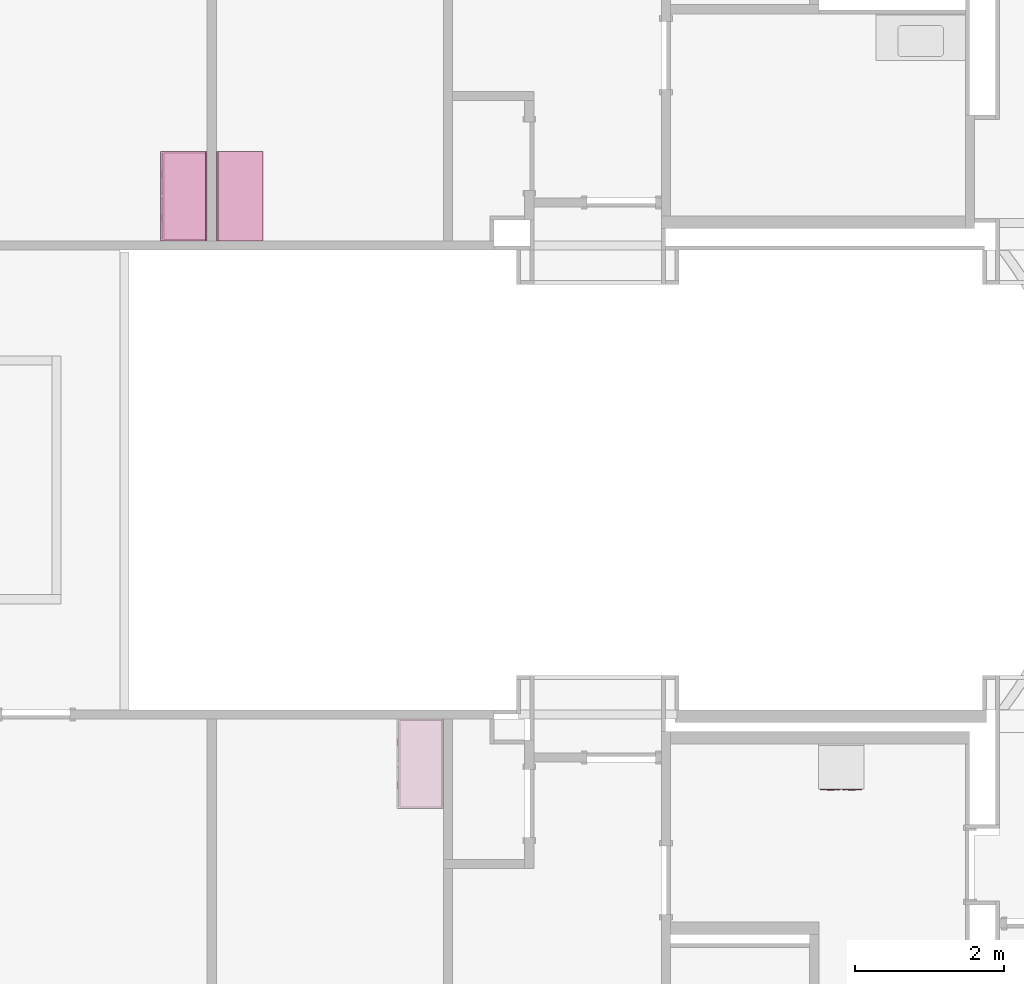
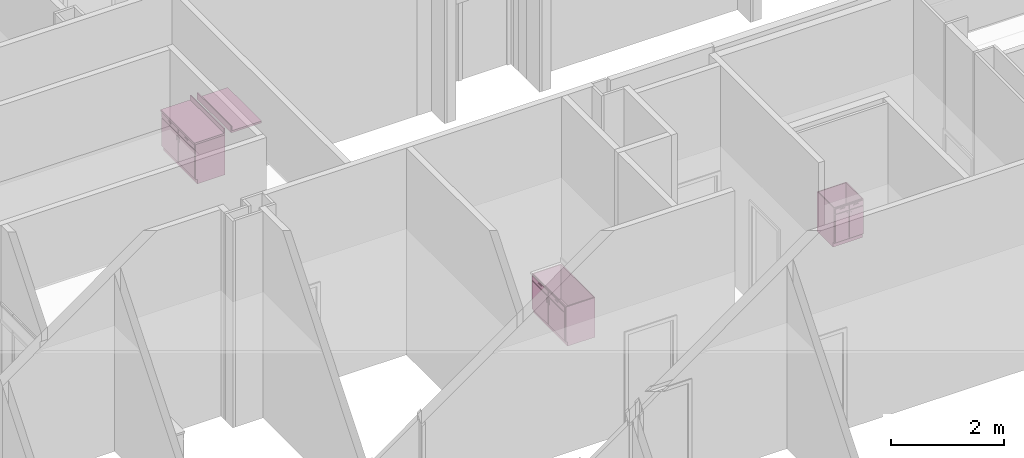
# One storey, part 77 of 82: 5 furnishings, 2 openings.
"""IFC2X3 building model written with IfcOpenShell, lengths in metres."""

from ifc_helpers import new_model, entity, si_unit, converted_unit, frame, frame_2d, origin, place, context, project, spatial, polyline, circle_curve, parameter, trimmed, segment, composite_curve, outline, extrude, face_set, surface_model, source, transform, mapped, type_object, type_shapes, element, save


model = new_model("IFC2X3")

# Units and contexts
model_context = context("Model", 3, precision=1e-09, world=origin())
plan_context = context("Plan", 3, precision=1e-09, world=origin())
ifc_project = project(units=[si_unit("LENGTHUNIT", "METRE"), si_unit("AREAUNIT", "SQUARE_METRE"), si_unit("VOLUMEUNIT", "CUBIC_METRE"), converted_unit("PLANEANGLEUNIT", "DEGREE", entity("IfcRatioMeasure", 0.01745329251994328), si_unit("PLANEANGLEUNIT", "RADIAN"), dimensions=[0, 0, 0, 0, 0, 0, 0]), si_unit("TIMEUNIT", "SECOND")], contexts=[model_context, plan_context])

# Site, building, storey, space
site_placement = place(None, origin())
site = spatial("IfcSite", under=ifc_project, at=site_placement, Name="Default", CompositionType="ELEMENT")
building_placement = place(site_placement, origin())
building = spatial("IfcBuilding", under=site, at=building_placement, CompositionType="ELEMENT")
storey_placement = place(building_placement, origin())
storey = spatial("IfcBuildingStorey", under=building, at=storey_placement, Name="First Floor", CompositionType="ELEMENT", Elevation=-3.531500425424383e-13)
space_1_placement = place(storey_placement, origin())
space_1 = spatial("IfcSpace", under=storey, at=space_1_placement, Name="1D08", CompositionType="ELEMENT", InteriorOrExteriorSpace="INTERNAL")

# Furnishing, opening
furniture_type_1 = type_object("IfcFurnitureType", Name="600mm Depth", AssemblyPlace="NOTDEFINED")
shared_shape_1 = source(origin(), model_context, "Body", "SweptSolid", [
    extrude(outline(polyline([(-0.0605333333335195, -0.2146833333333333), (0.08106666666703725, -0.2146833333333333), (0.08106666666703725, -0.1956333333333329), (-0.02053333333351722, -0.1956333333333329), (-0.02053333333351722, 0.4103166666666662), (-0.0605333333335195, 0.4103166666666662), (-0.0605333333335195, -0.2146833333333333)])), frame((-1.200462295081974, -0.2146833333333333, 0.920533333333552), z_axis=(1.0, 0.0, 0.0), x_axis=(0.0, 0.0, 1.0)), (0.0, 0.0, 1.0), 1.200000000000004),
])
type_shapes(furniture_type_1, [shared_shape_1])
furnishing_1_placement = place(space_1_placement, frame((-30.34000000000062, 36.10401044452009, 0.0), z_axis=(0.0, 0.0, 1.0), x_axis=(0.0, 1.0, 0.0)))
furnishing_1 = element("IfcFurnishingElement", 1, at=furnishing_1_placement, inside=space_1, type_object=furniture_type_1, Name="M_Counter Top w Sink Hole:600mm Depth:600mm Depth", ObjectType="600mm Depth", context=model_context, shape_type="MappedRepresentation", body=[
    mapped(shared_shape_1, transform((0.0, 0.0, 0.0), scale=1.0)),
])
opening_1_placement = place(space_1_placement, frame((-30.34000000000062, 36.10401044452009, 0.0), z_axis=(0.0, 0.0, 1.0), x_axis=(0.0, 1.0, 0.0)))
element("IfcOpeningElement", 2, at=opening_1_placement, cuts=furnishing_1, Name="M_Counter Top w Sink Hole:600mm Depth:600mm Depth:1", ObjectType="Opening", context=model_context, shape_type="SweptSolid", body=[
    extrude(outline(composite_curve([segment(polyline([(-0.2554000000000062, -0.208329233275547), (0.255399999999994, -0.2083292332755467)]), True, "CONTINUOUS"), segment(trimmed(circle_curve(frame_2d((0.2553999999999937, -0.1575292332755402), x_axis=(1.0, 0.0)), 0.05080000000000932), [parameter(270.0000000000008)], [parameter(1.068666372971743e-12)], True, "PARAMETER"), True, "CONTINUOUS"), segment(polyline([(0.306200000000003, -0.1575292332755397), (0.3062000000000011, 0.1575292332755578)]), True, "CONTINUOUS"), segment(trimmed(circle_curve(frame_2d((0.2554000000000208, 0.1575292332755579), x_axis=(1.0, 0.0)), 0.05079999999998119), [parameter(359.9999999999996)], [parameter(90.0000000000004)], True, "PARAMETER"), True, "CONTINUOUS"), segment(polyline([(0.2554000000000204, 0.2083292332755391), (-0.2554000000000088, 0.2083292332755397)]), True, "CONTINUOUS"), segment(trimmed(circle_curve(frame_2d((-0.2554000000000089, 0.1575292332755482), x_axis=(1.0, 0.0)), 0.0507999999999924), [parameter(90.00000000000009)], [parameter(179.9999999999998)], True, "PARAMETER"), True, "CONTINUOUS"), segment(polyline([(-0.3062000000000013, 0.157529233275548), (-0.3062000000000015, -0.1575292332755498)]), True, "CONTINUOUS"), segment(trimmed(circle_curve(frame_2d((-0.2554000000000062, -0.15752923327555), x_axis=(1.0, 0.0)), 0.05079999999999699), [parameter(179.9999999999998)], [parameter(269.9999999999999)], True, "PARAMETER"), True, "CONTINUOUS")], self_intersect=False)), frame((-0.3653589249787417, 0.6004622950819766, 0.900000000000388), z_axis=(0.0, 0.0, -1.0), x_axis=(0.0, -1.0, 0.0)), (0.0, 0.0, 1.0), 0.04000000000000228),
])

# Space
space_2_placement = place(storey_placement, origin())
space_2 = spatial("IfcSpace", under=storey, at=space_2_placement, Name="1D40", CompositionType="ELEMENT", InteriorOrExteriorSpace="INTERNAL")

# Furnishing
furniture_type_2 = type_object("IfcFurnitureType", Name="600mm", AssemblyPlace="NOTDEFINED")
shared_shape_2 = source(origin(), model_context, "Body", "SurfaceModel", [
    surface_model("IfcFaceBasedSurfaceModel", [(0.5809499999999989, 0.0444500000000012, 0.86000000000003), (0.5809499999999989, 0.0444500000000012, 0.09999999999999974), (0.01905000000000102, 0.0444500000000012, 0.09999999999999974), (0.01905000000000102, 0.0444500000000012, 0.86000000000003), (0.5999999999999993, 0.02540000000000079, 0.8600000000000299), (0.0, 0.02540000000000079, 0.8600000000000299), (0.5999999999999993, 0.02540000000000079, 0.09999999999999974), (0.0, 0.02540000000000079, 0.0999999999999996), (0.01905000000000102, 0.6063499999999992, 0.86000000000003), (0.01905000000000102, 0.6063499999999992, 0.09999999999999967), (0.01905000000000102, 0.06040000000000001, 0.09999999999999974), (0.0, 0.6253999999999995, 0.8600000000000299), (0.0, 0.6254000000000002, 0.0), (0.0, 0.06040000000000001, 0.0), (0.0, 0.06040000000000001, 0.09999999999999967), (0.5809499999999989, 0.6063499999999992, 0.86000000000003), (0.5809499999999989, 0.6063499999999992, 0.09999999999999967), (0.5999999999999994, 0.6253999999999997, 0.8600000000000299), (0.5999999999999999, 0.6253999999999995, 0.0), (0.5809499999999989, 0.06040000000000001, 0.09999999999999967), (0.5999999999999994, 0.06040000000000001, 0.09999999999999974), (0.5999999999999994, 0.06040000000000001, 0.0), (0.2103250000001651, 0.0, 0.8155500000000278), (0.2103250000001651, 0.0, 0.8028500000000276), (0.1087250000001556, 0.0, 0.8028500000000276), (0.1087250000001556, 0.0, 0.8155500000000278), (0.4912750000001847, 0.0, 0.8155500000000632), (0.4912750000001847, 0.0, 0.8028500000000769), (0.3896750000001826, 0.0, 0.8028500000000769), (0.3896750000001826, 0.0, 0.8155500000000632), (0.2650750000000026, 0.0, 0.6822000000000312), (0.2650750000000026, 0.0, 0.5806000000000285), (0.2523750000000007, 0.0, 0.5806000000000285), (0.2523750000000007, 0.0, 0.6822000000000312), (0.3476249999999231, 0.0, 0.6822000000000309), (0.3476249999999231, 0.0, 0.5806000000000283), (0.3349249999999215, 0.0, 0.5806000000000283), (0.3349249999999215, 0.0, 0.6822000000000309), (0.2103250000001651, 0.0127000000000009, 0.8155500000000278), (0.2103250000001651, 0.0127000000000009, 0.8028500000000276), (0.1087250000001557, 0.01270000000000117, 0.8028500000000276), (0.1087250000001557, 0.01270000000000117, 0.8155500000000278), (0.4912750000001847, 0.01269999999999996, 0.8155500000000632), (0.4912750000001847, 0.01269999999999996, 0.8028500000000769), (0.3896750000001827, 0.01270000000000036, 0.8028500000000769), (0.3896750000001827, 0.01270000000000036, 0.8155500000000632), (0.2650750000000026, 0.01270000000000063, 0.6822000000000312), (0.2650750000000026, 0.01270000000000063, 0.5806000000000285), (0.2523750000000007, 0.01270000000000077, 0.5806000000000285), (0.2523750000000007, 0.01270000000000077, 0.6822000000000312), (0.3476249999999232, 0.0127000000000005, 0.6822000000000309), (0.3476249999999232, 0.0127000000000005, 0.5806000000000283), (0.3349249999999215, 0.0127000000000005, 0.5806000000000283), (0.3349249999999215, 0.0127000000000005, 0.6822000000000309), (0.2904749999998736, 0.01270000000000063, 0.8409500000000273), (0.2904749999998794, 0.01270000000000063, 0.7393500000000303), (0.01905000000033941, 0.01270000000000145, 0.7393500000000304), (0.01905000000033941, 0.01270000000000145, 0.8409500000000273), (0.5809500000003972, 0.01269999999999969, 0.8409500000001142), (0.5809500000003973, 0.01269999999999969, 0.7393500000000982), (0.3095249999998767, 0.0127000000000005, 0.7393500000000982), (0.309524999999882, 0.0127000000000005, 0.8409500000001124), (0.2904749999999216, 0.01270000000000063, 0.7203000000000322), (0.290474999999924, 0.01270000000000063, 0.1190499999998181), (0.01905000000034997, 0.01270000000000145, 0.1190499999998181), (0.01905000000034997, 0.01270000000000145, 0.7203000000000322), (0.5809500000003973, 0.01269999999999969, 0.7203000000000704), (0.5809500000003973, 0.01269999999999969, 0.1190499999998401), (0.3095249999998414, 0.0127000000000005, 0.1190499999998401), (0.3095249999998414, 0.0127000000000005, 0.7203000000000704), (0.2904749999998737, 0.02540000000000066, 0.8409500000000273), (0.2904749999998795, 0.02540000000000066, 0.7393500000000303), (0.01905000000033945, 0.02540000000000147, 0.7393500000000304), (0.01905000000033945, 0.02540000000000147, 0.8409500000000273), (0.5809500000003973, 0.02539999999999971, 0.8409500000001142), (0.5809500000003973, 0.02539999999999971, 0.7393500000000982), (0.3095249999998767, 0.02540000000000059, 0.7393500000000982), (0.309524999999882, 0.02540000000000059, 0.8409500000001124), (0.2904749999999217, 0.02540000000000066, 0.7203000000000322), (0.290474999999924, 0.02540000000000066, 0.1190499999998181), (0.01905000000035, 0.02540000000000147, 0.1190499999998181), (0.01905000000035, 0.02540000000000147, 0.7203000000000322), (0.5809500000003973, 0.02539999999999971, 0.7203000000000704), (0.5809500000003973, 0.02539999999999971, 0.1190499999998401), (0.3095249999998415, 0.02540000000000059, 0.1190499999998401), (0.3095249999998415, 0.02540000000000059, 0.7203000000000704), (0.580949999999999, 0.6063499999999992, 0.1190499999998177), (0.580949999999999, 0.04445000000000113, 0.1190499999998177), (0.01905000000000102, 0.04445000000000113, 0.1190499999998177), (0.01905000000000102, 0.6063499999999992, 0.1190499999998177), (0.580949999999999, 0.6063499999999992, 0.09999999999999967), (0.580949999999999, 0.04445000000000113, 0.09999999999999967), (0.01905000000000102, 0.04445000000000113, 0.09999999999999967)], [face_set([[[0, 1, 2, 3]], [[0, 4, 5, 3]], [[4, 6, 7, 5]], [[2, 1, 6, 7]], [[3, 8, 9, 10, 2]], [[5, 11, 8, 3]], [[7, 5, 11, 12, 13, 14]], [[2, 7, 14, 10]], [[8, 15, 16, 9]], [[11, 17, 15, 8]], [[12, 11, 17, 18]], [[1, 19, 16, 15, 0]], [[0, 15, 17, 4]], [[4, 6, 20, 21, 18, 17]], [[6, 1, 19, 20]], [[10, 9, 16, 19]], [[18, 21, 13, 12]], [[13, 14, 10, 19, 20, 21]]]), face_set([[[22, 23, 24, 25]], [[26, 27, 28, 29]], [[30, 31, 32, 33]], [[34, 35, 36, 37]], [[38, 39, 40, 41]], [[42, 43, 44, 45]], [[46, 47, 48, 49]], [[50, 51, 52, 53]], [[25, 41, 38, 22]], [[24, 40, 41, 25]], [[23, 24, 40, 39]], [[22, 23, 39, 38]], [[29, 45, 42, 26]], [[28, 44, 45, 29]], [[27, 28, 44, 43]], [[26, 27, 43, 42]], [[33, 49, 46, 30]], [[32, 48, 49, 33]], [[31, 32, 48, 47]], [[30, 31, 47, 46]], [[37, 53, 50, 34]], [[36, 52, 53, 37]], [[35, 36, 52, 51]], [[34, 35, 51, 50]]]), face_set([[[54, 55, 56, 57]], [[58, 59, 60, 61]], [[62, 63, 64, 65]], [[66, 67, 68, 69]], [[70, 71, 72, 73]], [[74, 75, 76, 77]], [[78, 79, 80, 81]], [[82, 83, 84, 85]], [[57, 73, 70, 54]], [[56, 57, 73, 72]], [[55, 56, 72, 71]], [[54, 55, 71, 70]], [[61, 77, 74, 58]], [[60, 76, 77, 61]], [[59, 60, 76, 75]], [[58, 59, 75, 74]], [[65, 81, 78, 62]], [[64, 65, 81, 80]], [[63, 64, 80, 79]], [[62, 63, 79, 78]], [[69, 85, 82, 66]], [[68, 84, 85, 69]], [[67, 68, 84, 83]], [[66, 67, 83, 82]]]), face_set([[[86, 87, 88, 89]], [[90, 91, 92, 9]], [[89, 86, 90, 9]], [[88, 89, 9, 92]], [[87, 91, 92, 88]], [[86, 87, 91, 90]]])]),
])
type_shapes(furniture_type_2, [shared_shape_2])
furnishing_2_placement = place(space_2_placement, frame((-22.25761091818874, 27.52459999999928, 0.0)))
element("IfcFurnishingElement", 3, at=furnishing_2_placement, inside=space_2, type_object=furniture_type_2, Name="M_Base Cabinet-Double Door & 2 Drawer:600mm:600mm", ObjectType="600mm", context=model_context, shape_type="MappedRepresentation", body=[
    mapped(shared_shape_2, transform((0.0, 0.0, 0.0), scale=1.0)),
])

# Space
space_3_placement = place(storey_placement, origin())
space_3 = spatial("IfcSpace", under=storey, at=space_3_placement, Name="1D10", CompositionType="ELEMENT", InteriorOrExteriorSpace="INTERNAL")

# Furnishing, opening
furniture_type_3 = type_object("IfcFurnitureType", Name="600mm Depth", AssemblyPlace="NOTDEFINED")
shared_shape_3 = source(origin(), model_context, "Body", "SweptSolid", [
    extrude(outline(polyline([(-0.2146833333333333, -0.06053333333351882), (0.4103166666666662, -0.06053333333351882), (0.4103166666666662, -0.02053333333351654), (-0.1956333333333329, -0.02053333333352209), (-0.1956333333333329, 0.08106666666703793), (-0.2146833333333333, 0.08106666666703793), (-0.2146833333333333, -0.06053333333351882)])), frame((-1.200462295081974, 0.2146833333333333, 0.9205333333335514), z_axis=(1.0, 0.0, 0.0), x_axis=(0.0, 1.0, 0.0)), (0.0, 0.0, 1.0), 1.200000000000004),
])
type_shapes(furniture_type_3, [shared_shape_3])
furnishing_3_placement = place(space_3_placement, frame((-30.46400000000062, 36.10401044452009, 0.0), z_axis=(0.0, 0.0, 1.0), x_axis=(0.0, 1.0, 0.0)))
furnishing_3 = element("IfcFurnishingElement", 4, at=furnishing_3_placement, inside=space_3, type_object=furniture_type_3, Name="M_Counter Top w Sink Hole:600mm Depth:600mm Depth", ObjectType="600mm Depth", context=model_context, shape_type="MappedRepresentation", body=[
    mapped(shared_shape_3, transform((0.0, 0.0, 0.0), scale=1.0)),
])
opening_2_placement = place(space_3_placement, frame((-30.46400000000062, 36.10401044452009, 0.0), z_axis=(0.0, 0.0, 1.0), x_axis=(0.0, 1.0, 0.0)))
element("IfcOpeningElement", 5, at=opening_2_placement, cuts=furnishing_3, Name="M_Counter Top w Sink Hole:600mm Depth:600mm Depth:1", ObjectType="Opening", context=model_context, shape_type="SweptSolid", body=[
    extrude(outline(composite_curve([segment(trimmed(circle_curve(frame_2d((-0.2554000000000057, 0.157529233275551), x_axis=(1.0, 0.0)), 0.05079999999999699), [parameter(90.00000000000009)], [parameter(180.0000000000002)], True, "PARAMETER"), True, "CONTINUOUS"), segment(polyline([(-0.306200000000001, 0.157529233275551), (-0.3062000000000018, -0.1575292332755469)]), True, "CONTINUOUS"), segment(trimmed(circle_curve(frame_2d((-0.2554000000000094, -0.1575292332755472), x_axis=(1.0, 0.0)), 0.0507999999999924), [parameter(180.0000000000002)], [parameter(269.9999999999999)], True, "PARAMETER"), True, "CONTINUOUS"), segment(polyline([(-0.2554000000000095, -0.2083292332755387), (0.2554000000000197, -0.2083292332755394)]), True, "CONTINUOUS"), segment(trimmed(circle_curve(frame_2d((0.2554000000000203, -0.1575292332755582), x_axis=(1.0, 0.0)), 0.05079999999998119), [parameter(269.9999999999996)], [parameter(4.071109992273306e-13)], True, "PARAMETER"), True, "CONTINUOUS"), segment(polyline([(0.3062000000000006, -0.1575292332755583), (0.3062000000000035, 0.1575292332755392)]), True, "CONTINUOUS"), segment(trimmed(circle_curve(frame_2d((0.2553999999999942, 0.1575292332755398), x_axis=(1.0, 0.0)), 0.05080000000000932), [parameter(359.9999999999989)], [parameter(89.99999999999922)], True, "PARAMETER"), True, "CONTINUOUS"), segment(polyline([(0.2553999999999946, 0.2083292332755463), (-0.2554000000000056, 0.208329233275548)]), True, "CONTINUOUS")], self_intersect=False)), frame((0.365358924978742, 0.6004622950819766, 0.900000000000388), z_axis=(0.0, 0.0, -1.0), x_axis=(0.0, -1.0, 0.0)), (0.0, 0.0, 1.0), 0.04000000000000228),
])

# Furnishing
furniture_type_4 = type_object("IfcFurnitureType", Name="1200mm", AssemblyPlace="NOTDEFINED")
shared_shape_4 = source(origin(), model_context, "Body", "SurfaceModel", [
    surface_model("IfcFaceBasedSurfaceModel", [(1.180949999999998, 0.5809499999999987, 0.8600000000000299), (0.01905000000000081, 0.5809499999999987, 0.8600000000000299), (0.01905000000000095, 0.5809499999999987, 0.09999999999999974), (1.180949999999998, 0.5809499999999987, 0.09999999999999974), (0.0, 0.5999999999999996, 0.8600000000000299), (1.2, 0.5999999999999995, 0.8600000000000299), (0.0, 0.5999999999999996, 0.09999999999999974), (1.2, 0.5999999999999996, 0.0999999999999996), (0.01905000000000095, 0.5649999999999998, 0.09999999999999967), (0.01905000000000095, 0.019050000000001, 0.09999999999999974), (0.01905000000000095, 0.019050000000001, 0.8600000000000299), (0.0, 0.0, 0.8600000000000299), (0.0, 0.0, 0.0), (0.0, 0.5649999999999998, 0.0), (0.0, 0.5649999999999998, 0.09999999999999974), (1.180949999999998, 0.01905000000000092, 0.09999999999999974), (1.180949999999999, 0.01905000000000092, 0.8600000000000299), (1.2, 0.0, 0.8600000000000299), (1.2, 0.0, 0.0), (1.180949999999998, 0.5649999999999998, 0.09999999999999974), (1.2, 0.5649999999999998, 0.0), (1.2, 0.5649999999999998, 0.0999999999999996), (0.3603250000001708, 0.6253999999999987, 0.8155500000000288), (0.258725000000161, 0.6253999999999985, 0.8155500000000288), (0.2587250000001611, 0.6253999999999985, 0.8028500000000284), (0.3603250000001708, 0.6253999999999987, 0.8028500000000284), (0.9412750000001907, 0.6254000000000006, 0.8155500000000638), (0.8396750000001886, 0.6254000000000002, 0.8155500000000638), (0.8396750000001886, 0.6254000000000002, 0.8028500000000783), (0.9412750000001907, 0.6254000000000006, 0.8028500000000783), (0.5650750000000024, 0.6253999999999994, 0.6822000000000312), (0.5523750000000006, 0.6253999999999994, 0.6822000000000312), (0.5523750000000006, 0.6253999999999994, 0.5806000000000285), (0.5650750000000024, 0.6253999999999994, 0.5806000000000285), (0.6476249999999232, 0.6253999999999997, 0.6822000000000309), (0.6349249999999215, 0.6253999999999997, 0.6822000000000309), (0.6349249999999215, 0.6253999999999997, 0.5806000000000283), (0.6476249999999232, 0.6253999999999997, 0.5806000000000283), (0.3603250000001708, 0.6126999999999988, 0.8155500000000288), (0.2587250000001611, 0.6126999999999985, 0.8155500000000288), (0.2587250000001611, 0.6126999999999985, 0.8028500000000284), (0.3603250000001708, 0.6126999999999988, 0.8028500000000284), (0.9412750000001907, 0.6127000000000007, 0.8155500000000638), (0.8396750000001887, 0.6127000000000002, 0.8155500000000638), (0.8396750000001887, 0.6127000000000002, 0.8028500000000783), (0.9412750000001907, 0.6127000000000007, 0.8028500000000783), (0.5650750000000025, 0.6126999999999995, 0.6822000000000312), (0.5523750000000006, 0.6126999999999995, 0.6822000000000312), (0.5523750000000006, 0.6126999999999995, 0.5806000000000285), (0.5650750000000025, 0.6126999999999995, 0.5806000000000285), (0.6476249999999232, 0.6126999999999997, 0.6822000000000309), (0.6349249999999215, 0.6126999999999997, 0.6822000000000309), (0.6349249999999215, 0.6126999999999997, 0.5806000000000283), (0.6476249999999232, 0.6126999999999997, 0.5806000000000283), (0.5904749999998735, 0.6126999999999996, 0.8409500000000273), (0.01905000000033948, 0.6126999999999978, 0.8409500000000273), (0.01905000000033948, 0.6126999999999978, 0.7393500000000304), (0.5904749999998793, 0.6126999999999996, 0.7393500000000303), (1.180950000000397, 0.6127000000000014, 0.8409500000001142), (0.6095249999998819, 0.6126999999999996, 0.8409500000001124), (0.6095249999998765, 0.6126999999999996, 0.7393500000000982), (1.180950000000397, 0.6127000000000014, 0.7393500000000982), (0.5904749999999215, 0.6126999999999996, 0.7203000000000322), (0.01905000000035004, 0.6126999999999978, 0.7203000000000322), (0.01905000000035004, 0.6126999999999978, 0.1190499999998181), (0.5904749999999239, 0.6126999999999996, 0.1190499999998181), (1.180950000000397, 0.6127000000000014, 0.7203000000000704), (0.6095249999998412, 0.6126999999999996, 0.7203000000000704), (0.6095249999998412, 0.6126999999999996, 0.1190499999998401), (1.180950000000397, 0.6127000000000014, 0.1190499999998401), (0.5904749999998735, 0.5999999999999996, 0.8409500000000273), (0.01905000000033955, 0.5999999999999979, 0.8409500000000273), (0.01905000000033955, 0.5999999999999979, 0.7393500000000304), (0.5904749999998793, 0.5999999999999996, 0.7393500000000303), (1.180950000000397, 0.6000000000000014, 0.8409500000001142), (0.6095249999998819, 0.5999999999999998, 0.8409500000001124), (0.6095249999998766, 0.5999999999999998, 0.7393500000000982), (1.180950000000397, 0.6000000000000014, 0.7393500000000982), (0.5904749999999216, 0.5999999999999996, 0.7203000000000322), (0.01905000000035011, 0.5999999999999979, 0.7203000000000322), (0.01905000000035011, 0.5999999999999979, 0.1190499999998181), (0.5904749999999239, 0.5999999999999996, 0.1190499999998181), (1.180950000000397, 0.6000000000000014, 0.7203000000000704), (0.6095249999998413, 0.5999999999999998, 0.7203000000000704), (0.6095249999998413, 0.5999999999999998, 0.1190499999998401), (1.180950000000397, 0.6000000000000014, 0.1190499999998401), (1.180949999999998, 0.019050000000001, 0.1190499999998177), (0.01905000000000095, 0.019050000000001, 0.1190499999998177), (0.01905000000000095, 0.5809499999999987, 0.1190499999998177), (1.180949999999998, 0.5809499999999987, 0.1190499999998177), (1.180949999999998, 0.01905000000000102, 0.09999999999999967), (0.01905000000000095, 0.019050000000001, 0.09999999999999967), (0.01905000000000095, 0.5809499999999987, 0.09999999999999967), (1.180949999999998, 0.5809499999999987, 0.09999999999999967)], [face_set([[[0, 1, 2, 3]], [[0, 1, 4, 5]], [[5, 4, 6, 7]], [[2, 6, 7, 3]], [[1, 2, 8, 9, 10]], [[4, 1, 10, 11]], [[6, 4, 11, 12, 13, 14]], [[2, 8, 14, 6]], [[10, 9, 15, 16]], [[11, 10, 16, 17]], [[12, 18, 17, 11]], [[3, 0, 16, 15, 19]], [[0, 5, 17, 16]], [[5, 17, 18, 20, 21, 7]], [[7, 21, 19, 3]], [[8, 19, 15, 9]], [[18, 12, 13, 20]], [[13, 20, 21, 19, 8, 14]]]), face_set([[[22, 23, 24, 25]], [[26, 27, 28, 29]], [[30, 31, 32, 33]], [[34, 35, 36, 37]], [[38, 39, 40, 41]], [[42, 43, 44, 45]], [[46, 47, 48, 49]], [[50, 51, 52, 53]], [[23, 22, 38, 39]], [[24, 23, 39, 40]], [[25, 41, 40, 24]], [[22, 38, 41, 25]], [[27, 26, 42, 43]], [[28, 27, 43, 44]], [[29, 45, 44, 28]], [[26, 42, 45, 29]], [[31, 30, 46, 47]], [[32, 31, 47, 48]], [[33, 49, 48, 32]], [[30, 46, 49, 33]], [[35, 34, 50, 51]], [[36, 35, 51, 52]], [[37, 53, 52, 36]], [[34, 50, 53, 37]]]), face_set([[[54, 55, 56, 57]], [[58, 59, 60, 61]], [[62, 63, 64, 65]], [[66, 67, 68, 69]], [[70, 71, 72, 73]], [[74, 75, 76, 77]], [[78, 79, 80, 81]], [[82, 83, 84, 85]], [[55, 54, 70, 71]], [[56, 72, 71, 55]], [[57, 73, 72, 56]], [[54, 70, 73, 57]], [[59, 58, 74, 75]], [[60, 59, 75, 76]], [[61, 77, 76, 60]], [[58, 74, 77, 61]], [[63, 62, 78, 79]], [[64, 80, 79, 63]], [[65, 81, 80, 64]], [[62, 78, 81, 65]], [[67, 66, 82, 83]], [[68, 67, 83, 84]], [[69, 85, 84, 68]], [[66, 82, 85, 69]]]), face_set([[[86, 87, 88, 89]], [[90, 91, 92, 93]], [[87, 91, 90, 86]], [[88, 92, 91, 87]], [[89, 88, 92, 93]], [[86, 90, 93, 89]]])]),
])
type_shapes(furniture_type_4, [shared_shape_4])
furnishing_4_placement = place(space_3_placement, frame((-30.46375091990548, 34.90354814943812, 0.0), z_axis=(0.0, 0.0, 1.0), x_axis=(0.0, 1.0, 0.0)))
element("IfcFurnishingElement", 6, at=furnishing_4_placement, inside=space_3, type_object=furniture_type_4, Name="M_Base Cabinet-Double Door & 2 Drawer:1200mm:1200mm", ObjectType="1200mm", context=model_context, shape_type="MappedRepresentation", body=[
    mapped(shared_shape_4, transform((0.0, 0.0, 0.0), scale=1.0)),
])

# Space
space_4_placement = place(storey_placement, origin())
space_4 = spatial("IfcSpace", under=storey, at=space_4_placement, Name="1D35", CompositionType="ELEMENT", InteriorOrExteriorSpace="INTERNAL")

# Furnishing
furnishing_5_placement = place(space_4_placement, frame((-27.29375066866, 27.28599999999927, 0.0), z_axis=(0.0, 0.0, 1.0), x_axis=(0.0, 1.0, 0.0)))
element("IfcFurnishingElement", 7, at=furnishing_5_placement, inside=space_4, type_object=furniture_type_4, Name="M_Base Cabinet-Double Door & 2 Drawer:1200mm:1200mm", ObjectType="1200mm", context=model_context, shape_type="MappedRepresentation", body=[
    mapped(shared_shape_4, transform((0.0, 0.0, 0.0), scale=1.0)),
])

save(model, "model.ifc")
